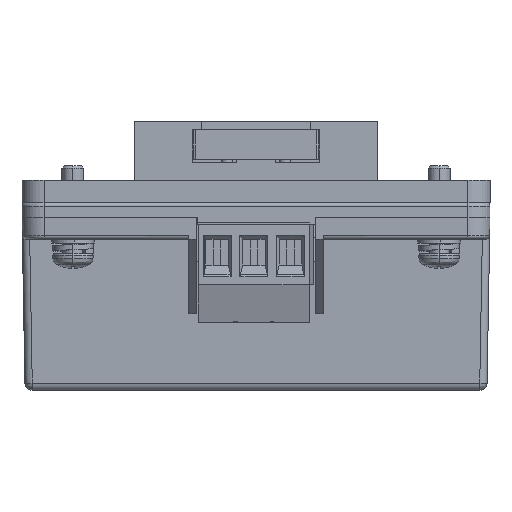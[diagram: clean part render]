
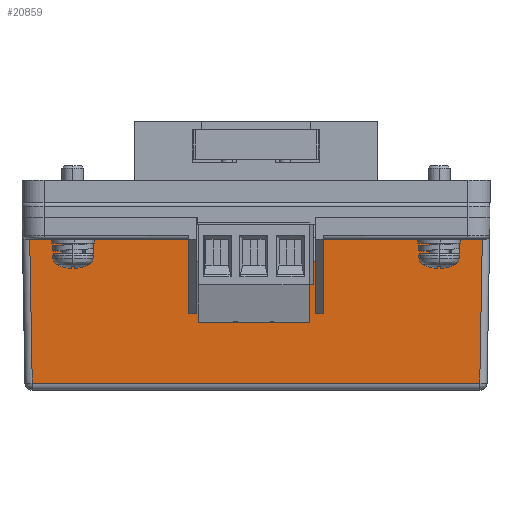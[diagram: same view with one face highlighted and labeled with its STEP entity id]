
A CAD part, left-side view. The second image highlights one B-rep face of the part: STEP entity #20859.
In plain terms, the highlighted planar face has unit normal (-1, 0, -0.018) as drawn and (0, 1, 0.017) by its records, which use the part's own axes.
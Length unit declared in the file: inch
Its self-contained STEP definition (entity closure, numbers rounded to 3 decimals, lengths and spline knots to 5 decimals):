
#1184 = EDGE_CURVE ( 'NONE', #51752, #28069, #6571, .T. ) ;
#1224 = CARTESIAN_POINT ( 'NONE',  ( -0.36024, 1.80206, 0.51871 ) ) ;
#1488 = VERTEX_POINT ( 'NONE', #1224 ) ;
#1587 = DIRECTION ( 'NONE',  ( 0.017, -0.017, 1. ) ) ;
#1593 = CARTESIAN_POINT ( 'NONE',  ( -1.25591, 1.80206, 0.51871 ) ) ;
#1777 = DIRECTION ( 'NONE',  ( 0., -0.017, 1. ) ) ;
#2866 = CARTESIAN_POINT ( 'NONE',  ( -0.32087, 1.80699, 0.23622 ) ) ;
#3405 = CARTESIAN_POINT ( 'NONE',  ( -1.25591, 1.80906, 0.11811 ) ) ;
#4648 = DIRECTION ( 'NONE',  ( 0.017, 0.017, -1. ) ) ;
#6165 = CARTESIAN_POINT ( 'NONE',  ( -1.25591, 1.80206, 0.51871 ) ) ;
#6402 = DIRECTION ( 'NONE',  ( -1., 0., 0. ) ) ;
#6571 = LINE ( 'NONE', #24672, #43228 ) ;
#7681 = DIRECTION ( 'NONE',  ( -1., 0., 0. ) ) ;
#10703 = VECTOR ( 'NONE', #44000, 39.37008 ) ;
#11418 = LINE ( 'NONE', #1593, #59300 ) ;
#11430 = CARTESIAN_POINT ( 'NONE',  ( -0.36024, 1.80906, 0.11811 ) ) ;
#12708 = CARTESIAN_POINT ( 'NONE',  ( 0.36024, 1.80206, 0.51871 ) ) ;
#13041 = VERTEX_POINT ( 'NONE', #33307 ) ;
#13129 = ORIENTED_EDGE ( 'NONE', *, *, #13900, .T. ) ;
#13539 = EDGE_CURVE ( 'NONE', #1488, #54074, #19765, .T. ) ;
#13900 = EDGE_CURVE ( 'NONE', #60117, #1488, #11418, .T. ) ;
#15079 = CARTESIAN_POINT ( 'NONE',  ( -1.25591, 1.79557, 0.89045 ) ) ;
#15407 = LINE ( 'NONE', #18860, #28107 ) ;
#16791 = VECTOR ( 'NONE', #1587, 39.37008 ) ;
#17425 = VERTEX_POINT ( 'NONE', #46197 ) ;
#18860 = CARTESIAN_POINT ( 'NONE',  ( 1.201, 1.79557, 0.89045 ) ) ;
#19299 = FACE_OUTER_BOUND ( 'NONE', #31265, .T. ) ;
#19765 = LINE ( 'NONE', #46585, #43723 ) ;
#19864 = DIRECTION ( 'NONE',  ( 1., 0., 0. ) ) ;
#20155 = CARTESIAN_POINT ( 'NONE',  ( -1.25591, 1.80906, 0.11811 ) ) ;
#20666 = CARTESIAN_POINT ( 'NONE',  ( 0.32087, 1.80206, 0.51871 ) ) ;
#20847 = CARTESIAN_POINT ( 'NONE',  ( 1.21448, 1.80906, 0.11811 ) ) ;
#20859 = ADVANCED_FACE ( 'NONE', ( #19299 ), #58859, .T. ) ;
#21425 = CARTESIAN_POINT ( 'NONE',  ( -1.21448, 1.80906, 0.11811 ) ) ;
#21686 = EDGE_CURVE ( 'NONE', #60117, #17425, #38583, .T. ) ;
#24373 = VECTOR ( 'NONE', #32373, 39.37008 ) ;
#24672 = CARTESIAN_POINT ( 'NONE',  ( 0.32087, 1.80206, 0.51871 ) ) ;
#25331 = ORIENTED_EDGE ( 'NONE', *, *, #33356, .T. ) ;
#26153 = CARTESIAN_POINT ( 'NONE',  ( -1.21448, 1.80906, 0.11811 ) ) ;
#26350 = EDGE_CURVE ( 'NONE', #33939, #13041, #34700, .T. ) ;
#27514 = ORIENTED_EDGE ( 'NONE', *, *, #21686, .F. ) ;
#27518 = CARTESIAN_POINT ( 'NONE',  ( -0.32087, 1.80206, 0.51871 ) ) ;
#28069 = VERTEX_POINT ( 'NONE', #42362 ) ;
#28107 = VECTOR ( 'NONE', #4648, 39.37008 ) ;
#28854 = LINE ( 'NONE', #3405, #41499 ) ;
#29364 = ORIENTED_EDGE ( 'NONE', *, *, #13539, .T. ) ;
#29916 = ORIENTED_EDGE ( 'NONE', *, *, #38808, .T. ) ;
#30317 = VERTEX_POINT ( 'NONE', #12708 ) ;
#30461 = DIRECTION ( 'NONE',  ( 0., 1., 0.017 ) ) ;
#31265 = EDGE_LOOP ( 'NONE', ( #29364, #61635, #50672, #25331, #57814, #55028, #49729, #29916, #39809, #32273, #27514, #13129 ) ) ;
#31562 = CARTESIAN_POINT ( 'NONE',  ( -0.32087, 1.80206, 0.51871 ) ) ;
#32110 = DIRECTION ( 'NONE',  ( -1., 0., 0. ) ) ;
#32273 = ORIENTED_EDGE ( 'NONE', *, *, #60127, .T. ) ;
#32373 = DIRECTION ( 'NONE',  ( 0., 0.017, -1. ) ) ;
#32708 = VECTOR ( 'NONE', #19864, 39.37008 ) ;
#33307 = CARTESIAN_POINT ( 'NONE',  ( 0.36024, 1.80906, 0.11811 ) ) ;
#33356 = EDGE_CURVE ( 'NONE', #58008, #47163, #45390, .T. ) ;
#33939 = VERTEX_POINT ( 'NONE', #20847 ) ;
#34700 = LINE ( 'NONE', #20155, #10703 ) ;
#34855 = DIRECTION ( 'NONE',  ( -1., 0., 0. ) ) ;
#35663 = LINE ( 'NONE', #2866, #48367 ) ;
#36378 = LINE ( 'NONE', #54090, #60278 ) ;
#36674 = LINE ( 'NONE', #6165, #49432 ) ;
#38583 = LINE ( 'NONE', #27518, #24373 ) ;
#38808 = EDGE_CURVE ( 'NONE', #30317, #51752, #36674, .T. ) ;
#39809 = ORIENTED_EDGE ( 'NONE', *, *, #1184, .T. ) ;
#41499 = VECTOR ( 'NONE', #32110, 39.37008 ) ;
#42362 = CARTESIAN_POINT ( 'NONE',  ( 0.32087, 1.80699, 0.23622 ) ) ;
#43228 = VECTOR ( 'NONE', #58107, 39.37008 ) ;
#43723 = VECTOR ( 'NONE', #51352, 39.37008 ) ;
#44000 = DIRECTION ( 'NONE',  ( -1., 0., 0. ) ) ;
#44354 = EDGE_CURVE ( 'NONE', #47163, #33939, #15407, .T. ) ;
#44544 = VERTEX_POINT ( 'NONE', #26153 ) ;
#45390 = LINE ( 'NONE', #15079, #32708 ) ;
#46197 = CARTESIAN_POINT ( 'NONE',  ( -0.32087, 1.80699, 0.23622 ) ) ;
#46585 = CARTESIAN_POINT ( 'NONE',  ( -0.36024, 1.80906, 0.11811 ) ) ;
#47163 = VERTEX_POINT ( 'NONE', #55160 ) ;
#48367 = VECTOR ( 'NONE', #7681, 39.37008 ) ;
#49432 = VECTOR ( 'NONE', #34855, 39.37008 ) ;
#49729 = ORIENTED_EDGE ( 'NONE', *, *, #57216, .T. ) ;
#50672 = ORIENTED_EDGE ( 'NONE', *, *, #60708, .T. ) ;
#51124 = AXIS2_PLACEMENT_3D ( 'NONE', #59063, #30461, #1777 ) ;
#51352 = DIRECTION ( 'NONE',  ( 0., 0.017, -1. ) ) ;
#51752 = VERTEX_POINT ( 'NONE', #20666 ) ;
#53453 = LINE ( 'NONE', #21425, #16791 ) ;
#54074 = VERTEX_POINT ( 'NONE', #11430 ) ;
#54090 = CARTESIAN_POINT ( 'NONE',  ( 0.36024, 1.80906, 0.11811 ) ) ;
#55028 = ORIENTED_EDGE ( 'NONE', *, *, #26350, .T. ) ;
#55160 = CARTESIAN_POINT ( 'NONE',  ( 1.201, 1.79557, 0.89045 ) ) ;
#57216 = EDGE_CURVE ( 'NONE', #13041, #30317, #36378, .T. ) ;
#57431 = EDGE_CURVE ( 'NONE', #54074, #44544, #28854, .T. ) ;
#57814 = ORIENTED_EDGE ( 'NONE', *, *, #44354, .T. ) ;
#58008 = VERTEX_POINT ( 'NONE', #60210 ) ;
#58107 = DIRECTION ( 'NONE',  ( 0., 0.017, -1. ) ) ;
#58859 = PLANE ( 'NONE',  #51124 ) ;
#58885 = DIRECTION ( 'NONE',  ( 0., -0.017, 1. ) ) ;
#59063 = CARTESIAN_POINT ( 'NONE',  ( -1.25591, 1.80906, 0.11811 ) ) ;
#59300 = VECTOR ( 'NONE', #6402, 39.37008 ) ;
#60117 = VERTEX_POINT ( 'NONE', #31562 ) ;
#60127 = EDGE_CURVE ( 'NONE', #28069, #17425, #35663, .T. ) ;
#60210 = CARTESIAN_POINT ( 'NONE',  ( -1.201, 1.79557, 0.89045 ) ) ;
#60278 = VECTOR ( 'NONE', #58885, 39.37008 ) ;
#60708 = EDGE_CURVE ( 'NONE', #44544, #58008, #53453, .T. ) ;
#61635 = ORIENTED_EDGE ( 'NONE', *, *, #57431, .T. ) ;
